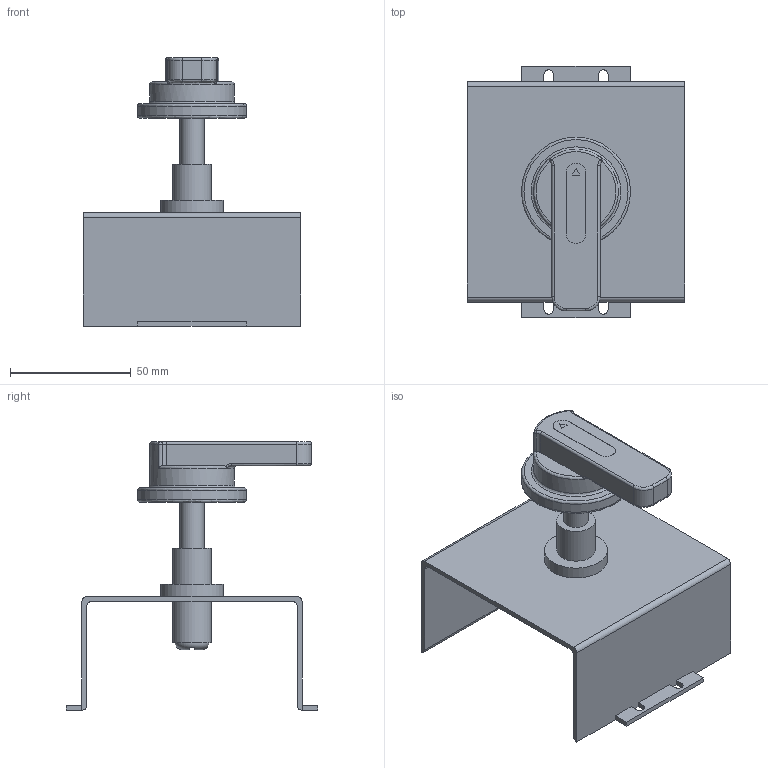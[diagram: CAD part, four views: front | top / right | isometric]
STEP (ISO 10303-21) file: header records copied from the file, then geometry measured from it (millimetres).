
FILE_DESCRIPTION(/* description */ (''),/* implementation_level */ '2;1');
FILE_NAME(/* name */ 'D:\2 ДОГОВОР ЧИНТ\NM1\Privod NM1-125.stp',/* time_stamp */ '2019-03-10T18:08:01+03:00',/* author */ ('RSagdiev'),/* organization */ (''),/* preprocessor_version */ 'ST-DEVELOPER v16.5',/* originating_system */ 'Autodesk Inventor 2017',/* authorisation */ '');
FILE_SCHEMA (('AUTOMOTIVE_DESIGN { 1 0 10303 214 3 1 1 }'));
Length unit declared in the file: millimetre
Products named in the file (1): Privod NM1-125
Bounding box: 90 x 104 x 111 mm (x, y, z)
Volume: 75315.1 mm3; surface area: 49262.9 mm2
Topology: 6 solids, 6 shells, 116 faces, 293 edges, 184 vertices
Faces by surface type: plane 64, cylinder 28, bspline 23, torus 1
Full cylindrical faces by diameter (mm): 10 x4, 14 x1, 16 x2, 26 x1, 35 x1, 45 x1
Entity records: 5262 total; most frequent: CARTESIAN_POINT 2532, ORIENTED_EDGE 556, DIRECTION 513, EDGE_CURVE 278, VERTEX_POINT 182, AXIS2_PLACEMENT_3D 178, LINE 157, VECTOR 157
